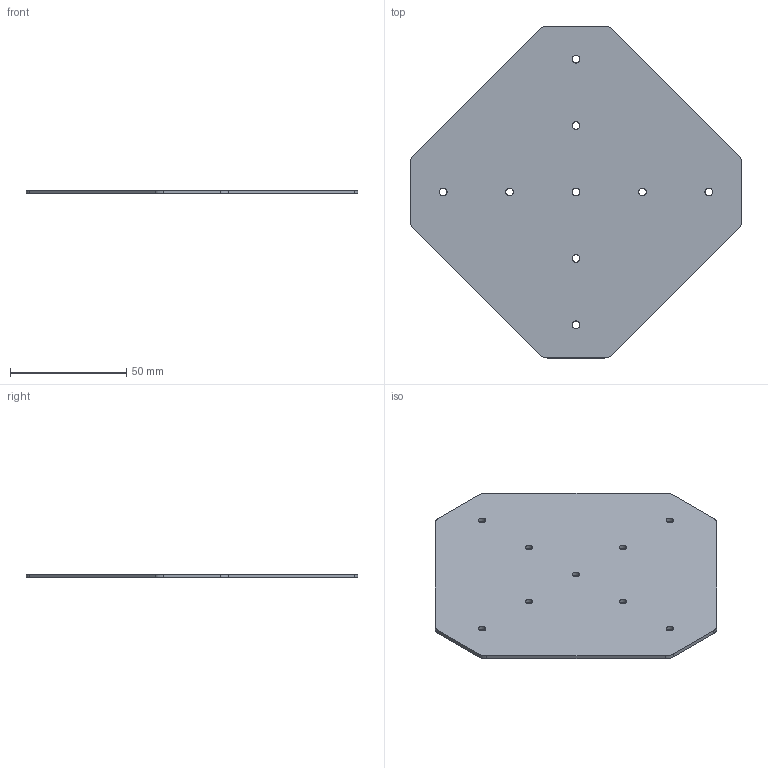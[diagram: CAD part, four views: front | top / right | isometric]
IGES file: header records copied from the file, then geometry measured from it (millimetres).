
Start section: SolidWorks IGES file using analytic representation for surfaces
Global section: file name: C:\Working\Gusset Convert\DRP-002-0007-01.igs; native system: SolidWorks 2010; preprocessor: SolidWorks 2010; author: mbush2; date: 100624.090001; units: inch
Bounding box: 142.88 x 142.88 x 1.59 mm (x, y, z)
Surface area: 28440 mm2 (no closed solid volume)
Topology: 0 solids, 0 shells, 36 faces, 504 edges, 504 vertices
Faces by surface type: revolution 26, bspline 10
